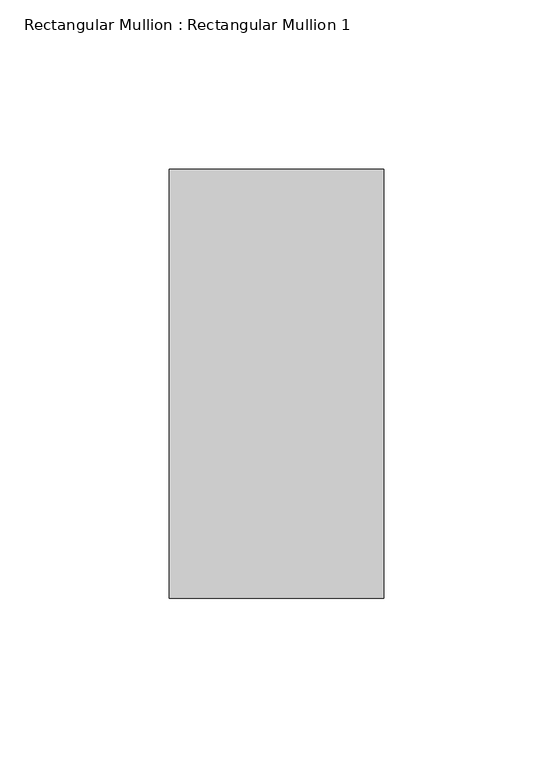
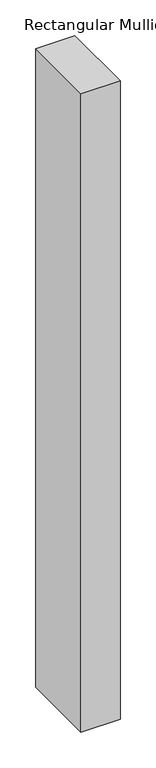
"""IFC4 building model written with IfcOpenShell, lengths in millimetres: member geometry, Rectangular Mullion : Rectangular Mullion 1."""

from ifc_helpers import new_model, si_unit, frame, origin, place, context, project, spatial, polyline, outline, extrude, source, transform, mapped, element, save


def rectangular_mullion_rectangular_mullion_1_c00fc970(model_context):
    return source(origin(), model_context, "Body", "SweptSolid", [
        extrude(outline(polyline([(0.0, 63.5), (0.0, -63.5), (-63.5, -63.5), (-63.5, 63.5), (0.0, 63.5)])), frame((0.0, 0.0, -1092.8202178), z_axis=(0.0, 0.0, 1.0), x_axis=(1.0, 0.0, 0.0)), (0.0, 0.0, 1.0), 1092.8202178),
    ])


if __name__ == "__main__":
    model = new_model("IFC4")
    model_context = context("Model", 3, world=origin())
    ifc_project = project(units=[si_unit("LENGTHUNIT", "METRE", prefix="MILLI")], contexts=[model_context])
    site = spatial("IfcSite", under=ifc_project)
    building = spatial("IfcBuilding", under=site)
    placement = place(None, origin())
    rectangular_mullion_rectangular_mullion_1_shape = rectangular_mullion_rectangular_mullion_1_c00fc970(model_context)
    element("IfcMember", 1, ObjectType="Rectangular Mullion : Rectangular Mullion 1", at=placement, inside=building, context=model_context, shape_type="MappedRepresentation", body=[
        mapped(rectangular_mullion_rectangular_mullion_1_shape, transform((0.0, 0.0, 0.0), x_axis=(1.0, 0.0, 0.0), y_axis=(0.0, 1.0, 0.0), z_axis=(0.0, 0.0, 1.0))),
    ])
    save(model, "model.ifc")
